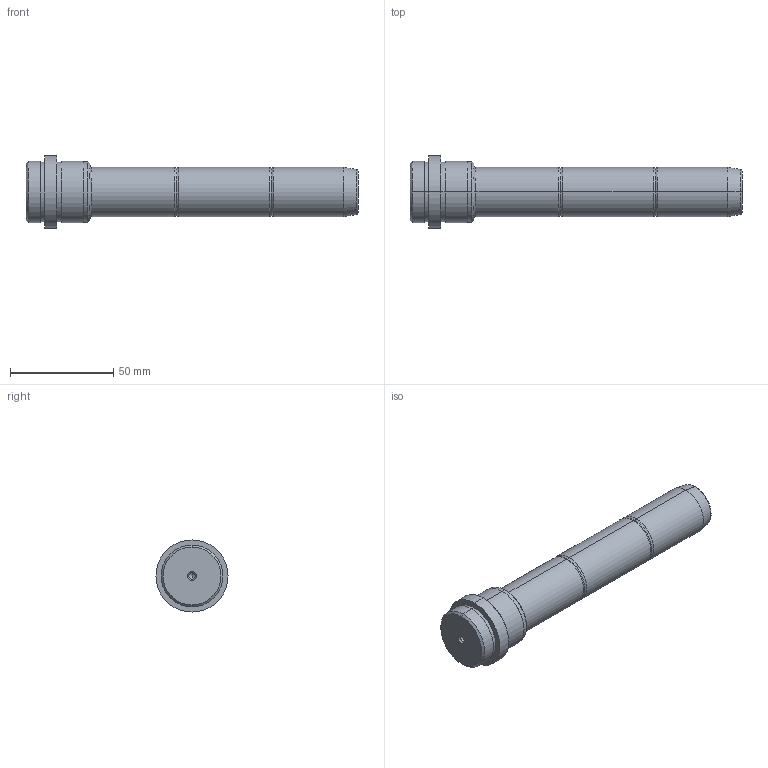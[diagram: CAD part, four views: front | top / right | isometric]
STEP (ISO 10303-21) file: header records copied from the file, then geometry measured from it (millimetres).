
FILE_DESCRIPTION( ( 'STEP AP203' ), '1' );
FILE_NAME( 'C:/Projects/D03 - 24x22x130.step', '2003-01-03T21:04:30', ( ' ' ), ( ' ' ), 'XStep 1.0', ' ', ' ' );
FILE_SCHEMA( ( 'CONFIG_CONTROL_DESIGN' ) );
Length unit declared in the file: metre
Products named in the file (1): 1
Bounding box: 161 x 35 x 35 mm (x, y, z)
Volume: 81705.7 mm3; surface area: 14722.9 mm2
Topology: 1 solids, 1 shells, 56 faces, 113 edges, 64 vertices
Faces by surface type: revolution 36, bspline 20
Entity records: 1691 total; most frequent: CARTESIAN_POINT 513, ORIENTED_EDGE 220, DIRECTION 218, EDGE_CURVE 110, AXIS2_PLACEMENT_3D 73, CIRCLE 72, EDGE_LOOP 64, VERTEX_POINT 64
